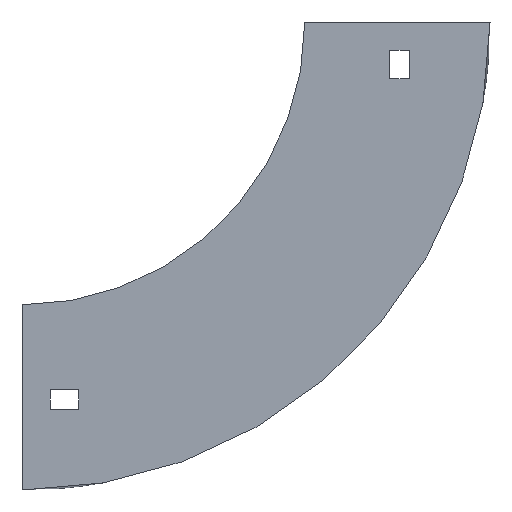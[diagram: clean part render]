
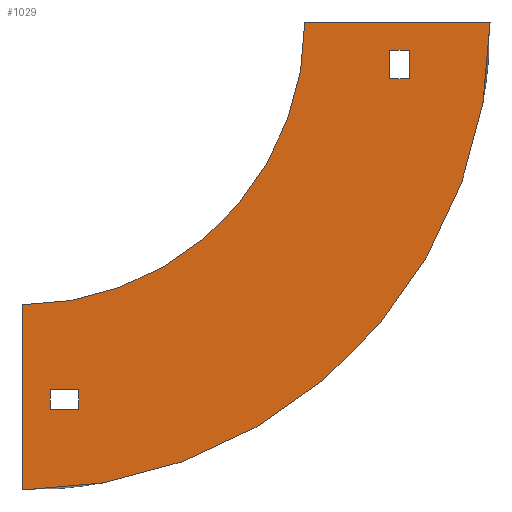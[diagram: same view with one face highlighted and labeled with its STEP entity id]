
A CAD part, left-side view. The second image highlights one B-rep face of the part: STEP entity #1029.
In plain terms, the highlighted planar face has unit normal (-1, 0, 0).
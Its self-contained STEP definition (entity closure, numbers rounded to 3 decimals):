
#38 = CARTESIAN_POINT ( 'NONE',  ( -202., 80., -137. ) ) ;
#63 = ORIENTED_EDGE ( 'NONE', *, *, #861, .T. ) ;
#67 = ORIENTED_EDGE ( 'NONE', *, *, #283, .T. ) ;
#77 = DIRECTION ( 'NONE',  ( 0., 0., -1. ) ) ;
#83 = CARTESIAN_POINT ( 'NONE',  ( -202., 100., -165.5 ) ) ;
#110 = CARTESIAN_POINT ( 'NONE',  ( -202., 90., -130. ) ) ;
#113 = ORIENTED_EDGE ( 'NONE', *, *, #426, .F. ) ;
#114 = LINE ( 'NONE', #110, #543 ) ;
#143 = PLANE ( 'NONE',  #1059 ) ;
#155 = CARTESIAN_POINT ( 'NONE',  ( -202., 90., -137. ) ) ;
#159 = EDGE_CURVE ( 'NONE', #647, #817, #852, .T. ) ;
#161 = CARTESIAN_POINT ( 'NONE',  ( -202., 90., -130. ) ) ;
#164 = VERTEX_POINT ( 'NONE', #396 ) ;
#166 = DIRECTION ( 'NONE',  ( 0., 0., 1. ) ) ;
#170 = EDGE_CURVE ( 'NONE', #600, #960, #657, .T. ) ;
#189 = EDGE_LOOP ( 'NONE', ( #67, #957, #63, #859 ) ) ;
#191 = VECTOR ( 'NONE', #232, 1000. ) ;
#206 = VECTOR ( 'NONE', #595, 1000. ) ;
#218 = LINE ( 'NONE', #402, #191 ) ;
#232 = DIRECTION ( 'NONE',  ( 0., -1., 0. ) ) ;
#233 = DIRECTION ( 'NONE',  ( 0., 1., 0. ) ) ;
#235 = LINE ( 'NONE', #155, #888 ) ;
#242 = EDGE_CURVE ( 'NONE', #901, #602, #1102, .T. ) ;
#283 = EDGE_CURVE ( 'NONE', #817, #671, #1065, .T. ) ;
#285 = VERTEX_POINT ( 'NONE', #802 ) ;
#291 = CARTESIAN_POINT ( 'NONE',  ( -202., 100., -100. ) ) ;
#330 = CARTESIAN_POINT ( 'NONE',  ( -202., 100., -100. ) ) ;
#366 = VECTOR ( 'NONE', #1142, 1000. ) ;
#367 = ORIENTED_EDGE ( 'NONE', *, *, #735, .F. ) ;
#387 = DIRECTION ( 'NONE',  ( 1., 0., 0. ) ) ;
#396 = CARTESIAN_POINT ( 'NONE',  ( -202., 90., -137. ) ) ;
#402 = CARTESIAN_POINT ( 'NONE',  ( -202., -30., -10. ) ) ;
#404 = ORIENTED_EDGE ( 'NONE', *, *, #747, .F. ) ;
#405 = FACE_BOUND ( 'NONE', #189, .T. ) ;
#419 = CIRCLE ( 'NONE', #1076, 165.5 ) ;
#426 = EDGE_CURVE ( 'NONE', #285, #164, #114, .T. ) ;
#432 = VERTEX_POINT ( 'NONE', #291 ) ;
#468 = DIRECTION ( 'NONE',  ( 0., 0., -1. ) ) ;
#475 = CARTESIAN_POINT ( 'NONE',  ( -202., -65.5, 0. ) ) ;
#480 = VECTOR ( 'NONE', #233, 1000. ) ;
#494 = DIRECTION ( 'NONE',  ( 0., 0., -1. ) ) ;
#525 = EDGE_CURVE ( 'NONE', #671, #617, #218, .T. ) ;
#529 = AXIS2_PLACEMENT_3D ( 'NONE', #974, #1066, #77 ) ;
#530 = LINE ( 'NONE', #161, #206 ) ;
#543 = VECTOR ( 'NONE', #815, 1000. ) ;
#549 = ORIENTED_EDGE ( 'NONE', *, *, #1077, .F. ) ;
#556 = DIRECTION ( 'NONE',  ( 0., 0., -1. ) ) ;
#563 = CARTESIAN_POINT ( 'NONE',  ( -202., 100., 0. ) ) ;
#566 = CARTESIAN_POINT ( 'NONE',  ( -202., -37., -20. ) ) ;
#569 = CARTESIAN_POINT ( 'NONE',  ( -202., 100., 0. ) ) ;
#581 = CARTESIAN_POINT ( 'NONE',  ( -202., -65.5, 0. ) ) ;
#595 = DIRECTION ( 'NONE',  ( 0., 1., 0. ) ) ;
#600 = VERTEX_POINT ( 'NONE', #38 ) ;
#602 = VERTEX_POINT ( 'NONE', #581 ) ;
#613 = EDGE_LOOP ( 'NONE', ( #113, #367, #631, #884 ) ) ;
#617 = VERTEX_POINT ( 'NONE', #851 ) ;
#625 = CARTESIAN_POINT ( 'NONE',  ( -202., -30., -10. ) ) ;
#628 = LINE ( 'NONE', #986, #700 ) ;
#631 = ORIENTED_EDGE ( 'NONE', *, *, #170, .F. ) ;
#647 = VERTEX_POINT ( 'NONE', #566 ) ;
#657 = LINE ( 'NONE', #926, #796 ) ;
#667 = ORIENTED_EDGE ( 'NONE', *, *, #806, .F. ) ;
#671 = VERTEX_POINT ( 'NONE', #975 ) ;
#674 = ORIENTED_EDGE ( 'NONE', *, *, #242, .F. ) ;
#700 = VECTOR ( 'NONE', #468, 1000. ) ;
#714 = CARTESIAN_POINT ( 'NONE',  ( -202., -30., -20. ) ) ;
#721 = VERTEX_POINT ( 'NONE', #83 ) ;
#735 = EDGE_CURVE ( 'NONE', #960, #285, #530, .T. ) ;
#747 = EDGE_CURVE ( 'NONE', #721, #432, #1067, .T. ) ;
#760 = DIRECTION ( 'NONE',  ( 1., 0., 0. ) ) ;
#783 = FACE_OUTER_BOUND ( 'NONE', #993, .T. ) ;
#796 = VECTOR ( 'NONE', #834, 1000. ) ;
#802 = CARTESIAN_POINT ( 'NONE',  ( -202., 90., -130. ) ) ;
#806 = EDGE_CURVE ( 'NONE', #602, #721, #419, .T. ) ;
#807 = CARTESIAN_POINT ( 'NONE',  ( -202., 0., 0. ) ) ;
#815 = DIRECTION ( 'NONE',  ( 0., 0., -1. ) ) ;
#817 = VERTEX_POINT ( 'NONE', #714 ) ;
#834 = DIRECTION ( 'NONE',  ( 0., 0., 1. ) ) ;
#839 = DIRECTION ( 'NONE',  ( 0., -1., 0. ) ) ;
#849 = CARTESIAN_POINT ( 'NONE',  ( -202., 80., -130. ) ) ;
#851 = CARTESIAN_POINT ( 'NONE',  ( -202., -37., -10. ) ) ;
#852 = LINE ( 'NONE', #940, #480 ) ;
#859 = ORIENTED_EDGE ( 'NONE', *, *, #159, .T. ) ;
#861 = EDGE_CURVE ( 'NONE', #617, #647, #628, .T. ) ;
#884 = ORIENTED_EDGE ( 'NONE', *, *, #929, .F. ) ;
#888 = VECTOR ( 'NONE', #1136, 1000. ) ;
#899 = VECTOR ( 'NONE', #166, 1000. ) ;
#901 = VERTEX_POINT ( 'NONE', #807 ) ;
#926 = CARTESIAN_POINT ( 'NONE',  ( -202., 80., -130. ) ) ;
#929 = EDGE_CURVE ( 'NONE', #164, #600, #235, .T. ) ;
#940 = CARTESIAN_POINT ( 'NONE',  ( -202., -30., -20. ) ) ;
#957 = ORIENTED_EDGE ( 'NONE', *, *, #525, .T. ) ;
#960 = VERTEX_POINT ( 'NONE', #849 ) ;
#965 = CIRCLE ( 'NONE', #529, 100. ) ;
#974 = CARTESIAN_POINT ( 'NONE',  ( -202., 100., 0. ) ) ;
#975 = CARTESIAN_POINT ( 'NONE',  ( -202., -30., -10. ) ) ;
#982 = VECTOR ( 'NONE', #839, 1000. ) ;
#986 = CARTESIAN_POINT ( 'NONE',  ( -202., -37., -10. ) ) ;
#993 = EDGE_LOOP ( 'NONE', ( #549, #404, #667, #674 ) ) ;
#1023 = FACE_BOUND ( 'NONE', #613, .T. ) ;
#1029 = ADVANCED_FACE ( 'NONE', ( #783, #405, #1023 ), #143, .F. ) ;
#1059 = AXIS2_PLACEMENT_3D ( 'NONE', #569, #760, #494 ) ;
#1065 = LINE ( 'NONE', #625, #366 ) ;
#1066 = DIRECTION ( 'NONE',  ( -1., 0., 0. ) ) ;
#1067 = LINE ( 'NONE', #330, #899 ) ;
#1076 = AXIS2_PLACEMENT_3D ( 'NONE', #563, #387, #556 ) ;
#1077 = EDGE_CURVE ( 'NONE', #432, #901, #965, .T. ) ;
#1102 = LINE ( 'NONE', #475, #982 ) ;
#1136 = DIRECTION ( 'NONE',  ( 0., -1., 0. ) ) ;
#1142 = DIRECTION ( 'NONE',  ( 0., 0., 1. ) ) ;
